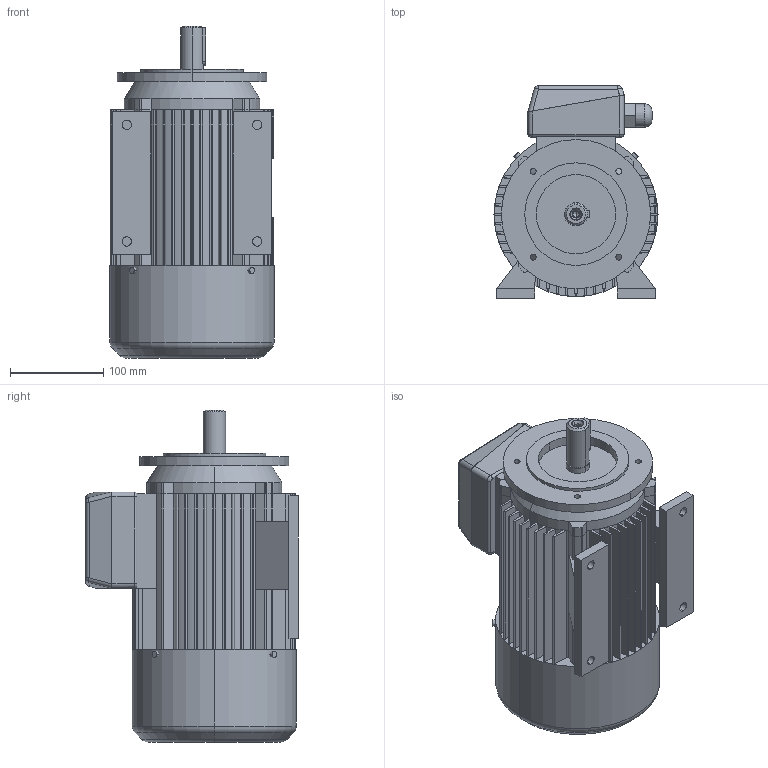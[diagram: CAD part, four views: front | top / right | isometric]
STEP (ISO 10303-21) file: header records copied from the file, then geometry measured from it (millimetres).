
FILE_DESCRIPTION (( 'STEP AP203' ), '1' );
FILE_NAME ('2SIEL90L4,6-B34-C1.STEP', '2013-01-07T12:48:38', ( 'INDUKTA' ), ( 'CANTONI MOTOR' ), 'SwSTEP 2.0', 'SolidWorks 2003064', '' );
FILE_SCHEMA (( 'CONFIG_CONTROL_DESIGN' ));
Length unit declared in the file: millimetre
Products named in the file (1): 2SIEL90L4,6-B34-C1
Bounding box: 176 x 228 x 356 mm (x, y, z)
Volume: 7050476.4 mm3; surface area: 551700.5 mm2
Topology: 13 solids, 13 shells, 408 faces, 1075 edges, 688 vertices
Faces by surface type: plane 192, cylinder 188, cone 14, torus 10, sphere 4
Entity records: 12726 total; most frequent: DIRECTION 2306, CARTESIAN_POINT 2227, ORIENTED_EDGE 2138, EDGE_CURVE 1069, AXIS2_PLACEMENT_3D 839, VERTEX_POINT 688, LINE 628, VECTOR 628
